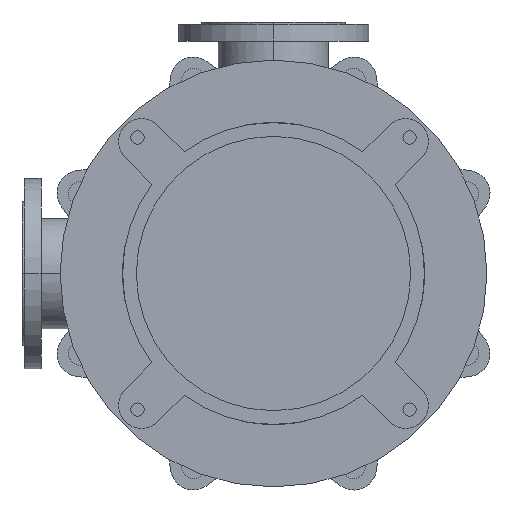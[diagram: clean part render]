
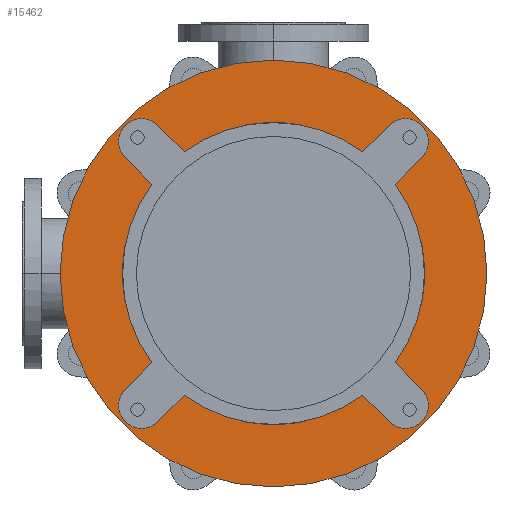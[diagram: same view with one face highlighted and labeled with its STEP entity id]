
A CAD part, front view. The second image highlights one B-rep face of the part: STEP entity #15462.
In plain terms, the highlighted planar face has unit normal (0, -1, 0).
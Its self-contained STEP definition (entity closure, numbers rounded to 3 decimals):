
#4307=CARTESIAN_POINT('',(0.,-25.,0.));
#4308=DIRECTION('',(0.,1.,0.));
#4309=DIRECTION('',(0.592,0.,-0.806));
#4310=AXIS2_PLACEMENT_3D('',#4307,#4308,#4309);
#4325=CARTESIAN_POINT('',(0.,-25.,0.));
#4326=DIRECTION('',(0.,1.,0.));
#4327=DIRECTION('',(0.806,0.,0.592));
#4328=AXIS2_PLACEMENT_3D('',#4325,#4326,#4327);
#4352=CARTESIAN_POINT('',(0.,-25.,0.));
#4353=DIRECTION('',(0.,1.,0.));
#4354=DIRECTION('',(-0.806,0.,-0.592));
#4355=AXIS2_PLACEMENT_3D('',#4352,#4353,#4354);
#4361=CARTESIAN_POINT('',(0.,-25.,0.));
#4362=DIRECTION('',(0.,1.,0.));
#4363=DIRECTION('',(-0.592,0.,0.806));
#4364=AXIS2_PLACEMENT_3D('',#4361,#4362,#4363);
#4539=CARTESIAN_POINT('',(0.,-25.,0.));
#4540=DIRECTION('',(0.,-1.,0.));
#4541=DIRECTION('',(-1.,0.,0.));
#4542=AXIS2_PLACEMENT_3D('',#4539,#4540,#4541);
#4544=CARTESIAN_POINT('',(0.,-25.,0.));
#4545=DIRECTION('',(0.,1.,0.));
#4546=DIRECTION('',(-1.,0.,0.));
#4547=AXIS2_PLACEMENT_3D('',#4544,#4545,#4546);
#4549=CARTESIAN_POINT('',(-173.241,-25.,173.241));
#4550=DIRECTION('',(0.,-1.,0.));
#4551=DIRECTION('',(0.707,0.,0.707));
#4552=AXIS2_PLACEMENT_3D('',#4549,#4550,#4551);
#4554=DIRECTION('',(0.707,0.,-0.707));
#4555=VECTOR('',#4554,49.286);
#4556=CARTESIAN_POINT('',(-194.454,-25.,152.028));
#4557=LINE('',#4556,#4555);
#4558=DIRECTION('',(-0.707,0.,-0.707));
#4559=VECTOR('',#4558,49.286);
#4560=CARTESIAN_POINT('',(-159.604,-25.,-117.178));
#4561=LINE('',#4560,#4559);
#4562=CARTESIAN_POINT('',(-173.241,-25.,-173.241));
#4563=DIRECTION('',(0.,-1.,0.));
#4564=DIRECTION('',(-0.707,0.,0.707));
#4565=AXIS2_PLACEMENT_3D('',#4562,#4563,#4564);
#4567=DIRECTION('',(0.707,0.,0.707));
#4568=VECTOR('',#4567,49.286);
#4569=CARTESIAN_POINT('',(-152.028,-25.,-194.454));
#4570=LINE('',#4569,#4568);
#4571=DIRECTION('',(0.707,0.,-0.707));
#4572=VECTOR('',#4571,49.286);
#4573=CARTESIAN_POINT('',(117.178,-25.,-159.604));
#4574=LINE('',#4573,#4572);
#4575=CARTESIAN_POINT('',(173.241,-25.,-173.241));
#4576=DIRECTION('',(0.,-1.,0.));
#4577=DIRECTION('',(-0.707,0.,-0.707));
#4578=AXIS2_PLACEMENT_3D('',#4575,#4576,#4577);
#4580=DIRECTION('',(-0.707,0.,0.707));
#4581=VECTOR('',#4580,49.286);
#4582=CARTESIAN_POINT('',(194.454,-25.,-152.028));
#4583=LINE('',#4582,#4581);
#4584=DIRECTION('',(0.707,0.,0.707));
#4585=VECTOR('',#4584,49.286);
#4586=CARTESIAN_POINT('',(159.604,-25.,117.178));
#4587=LINE('',#4586,#4585);
#4588=CARTESIAN_POINT('',(173.241,-25.,173.241));
#4589=DIRECTION('',(0.,-1.,0.));
#4590=DIRECTION('',(0.707,0.,-0.707));
#4591=AXIS2_PLACEMENT_3D('',#4588,#4589,#4590);
#4593=DIRECTION('',(-0.707,0.,-0.707));
#4594=VECTOR('',#4593,49.286);
#4595=CARTESIAN_POINT('',(152.028,-25.,194.454));
#4596=LINE('',#4595,#4594);
#4597=DIRECTION('',(-0.707,0.,0.707));
#4598=VECTOR('',#4597,49.286);
#4599=CARTESIAN_POINT('',(-117.178,-25.,159.604));
#4600=LINE('',#4599,#4598);
#8370=CARTESIAN_POINT('',(-280.,-25.,0.));
#8371=CARTESIAN_POINT('',(280.,-25.,0.));
#8372=VERTEX_POINT('',#8370);
#8373=VERTEX_POINT('',#8371);
#8394=CARTESIAN_POINT('',(-194.454,-25.,-152.028));
#8395=CARTESIAN_POINT('',(-152.028,-25.,-194.454));
#8396=VERTEX_POINT('',#8394);
#8397=VERTEX_POINT('',#8395);
#8398=CARTESIAN_POINT('',(-117.178,-25.,-159.604));
#8399=VERTEX_POINT('',#8398);
#8400=CARTESIAN_POINT('',(-159.604,-25.,-117.178));
#8401=VERTEX_POINT('',#8400);
#8410=CARTESIAN_POINT('',(152.028,-25.,-194.454));
#8411=CARTESIAN_POINT('',(194.454,-25.,-152.028));
#8412=VERTEX_POINT('',#8410);
#8413=VERTEX_POINT('',#8411);
#8414=CARTESIAN_POINT('',(159.604,-25.,-117.178));
#8415=VERTEX_POINT('',#8414);
#8416=CARTESIAN_POINT('',(117.178,-25.,-159.604));
#8417=VERTEX_POINT('',#8416);
#8426=CARTESIAN_POINT('',(194.454,-25.,152.028));
#8427=CARTESIAN_POINT('',(152.028,-25.,194.454));
#8428=VERTEX_POINT('',#8426);
#8429=VERTEX_POINT('',#8427);
#8430=CARTESIAN_POINT('',(117.178,-25.,159.604));
#8431=VERTEX_POINT('',#8430);
#8432=CARTESIAN_POINT('',(159.604,-25.,117.178));
#8433=VERTEX_POINT('',#8432);
#8442=CARTESIAN_POINT('',(-152.028,-25.,194.454));
#8443=CARTESIAN_POINT('',(-194.454,-25.,152.028));
#8444=VERTEX_POINT('',#8442);
#8445=VERTEX_POINT('',#8443);
#8446=CARTESIAN_POINT('',(-159.604,-25.,117.178));
#8447=VERTEX_POINT('',#8446);
#8448=CARTESIAN_POINT('',(-117.178,-25.,159.604));
#8449=VERTEX_POINT('',#8448);
#15422=CARTESIAN_POINT('',(0.,-25.,0.));
#15423=DIRECTION('',(0.,-1.,0.));
#15424=DIRECTION('',(-1.,0.,0.));
#15425=AXIS2_PLACEMENT_3D('',#15422,#15423,#15424);
#15426=PLANE('',#15425);
#15428=ORIENTED_EDGE('',*,*,#15427,.F.);
#15430=ORIENTED_EDGE('',*,*,#15429,.T.);
#15431=EDGE_LOOP('',(#15428,#15430));
#15432=FACE_OUTER_BOUND('',#15431,.F.);
#15434=ORIENTED_EDGE('',*,*,#15433,.T.);
#15436=ORIENTED_EDGE('',*,*,#15435,.T.);
#15437=ORIENTED_EDGE('',*,*,#15375,.F.);
#15439=ORIENTED_EDGE('',*,*,#15438,.T.);
#15441=ORIENTED_EDGE('',*,*,#15440,.T.);
#15443=ORIENTED_EDGE('',*,*,#15442,.T.);
#15444=ORIENTED_EDGE('',*,*,#15328,.F.);
#15445=ORIENTED_EDGE('',*,*,#15412,.T.);
#15447=ORIENTED_EDGE('',*,*,#15446,.T.);
#15449=ORIENTED_EDGE('',*,*,#15448,.T.);
#15450=ORIENTED_EDGE('',*,*,#15349,.F.);
#15452=ORIENTED_EDGE('',*,*,#15451,.T.);
#15454=ORIENTED_EDGE('',*,*,#15453,.T.);
#15456=ORIENTED_EDGE('',*,*,#15455,.T.);
#15457=ORIENTED_EDGE('',*,*,#15393,.F.);
#15459=ORIENTED_EDGE('',*,*,#15458,.T.);
#15460=EDGE_LOOP('',(#15434,#15436,#15437,#15439,#15441,#15443,#15444,#15445,
#15447,#15449,#15450,#15452,#15454,#15456,#15457,#15459));
#15461=FACE_BOUND('',#15460,.F.);
#15462=ADVANCED_FACE('',(#15432,#15461),#15426,.T.);
#4311=CIRCLE('',#4310,198.);
#4329=CIRCLE('',#4328,198.);
#4356=CIRCLE('',#4355,198.);
#4365=CIRCLE('',#4364,198.);
#4543=CIRCLE('',#4542,280.);
#4548=CIRCLE('',#4547,280.);
#4553=CIRCLE('',#4552,30.);
#4566=CIRCLE('',#4565,30.);
#4579=CIRCLE('',#4578,30.);
#4592=CIRCLE('',#4591,30.);
#15328=EDGE_CURVE('',#8417,#8399,#4311,.T.);
#15349=EDGE_CURVE('',#8433,#8415,#4329,.T.);
#15375=EDGE_CURVE('',#8401,#8447,#4356,.T.);
#15393=EDGE_CURVE('',#8449,#8431,#4365,.T.);
#15412=EDGE_CURVE('',#8417,#8412,#4574,.T.);
#15427=EDGE_CURVE('',#8372,#8373,#4543,.T.);
#15429=EDGE_CURVE('',#8372,#8373,#4548,.T.);
#15433=EDGE_CURVE('',#8444,#8445,#4553,.T.);
#15435=EDGE_CURVE('',#8445,#8447,#4557,.T.);
#15438=EDGE_CURVE('',#8401,#8396,#4561,.T.);
#15440=EDGE_CURVE('',#8396,#8397,#4566,.T.);
#15442=EDGE_CURVE('',#8397,#8399,#4570,.T.);
#15446=EDGE_CURVE('',#8412,#8413,#4579,.T.);
#15448=EDGE_CURVE('',#8413,#8415,#4583,.T.);
#15451=EDGE_CURVE('',#8433,#8428,#4587,.T.);
#15453=EDGE_CURVE('',#8428,#8429,#4592,.T.);
#15455=EDGE_CURVE('',#8429,#8431,#4596,.T.);
#15458=EDGE_CURVE('',#8449,#8444,#4600,.T.);
